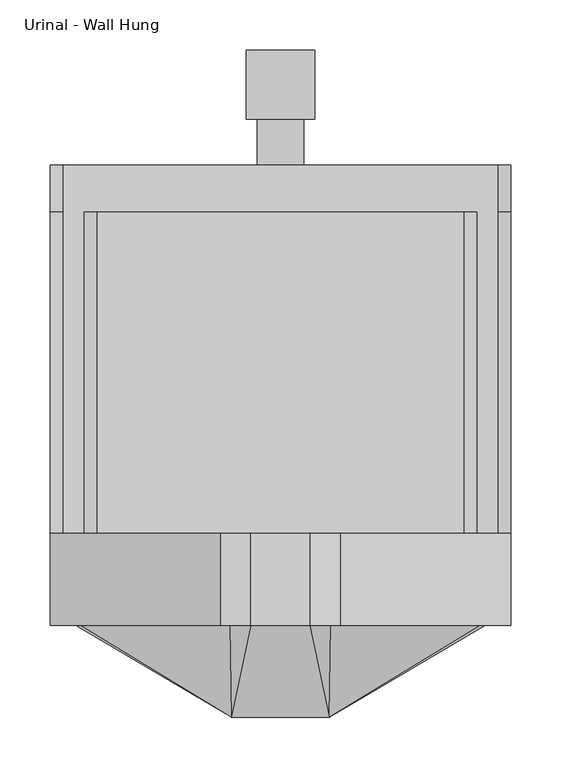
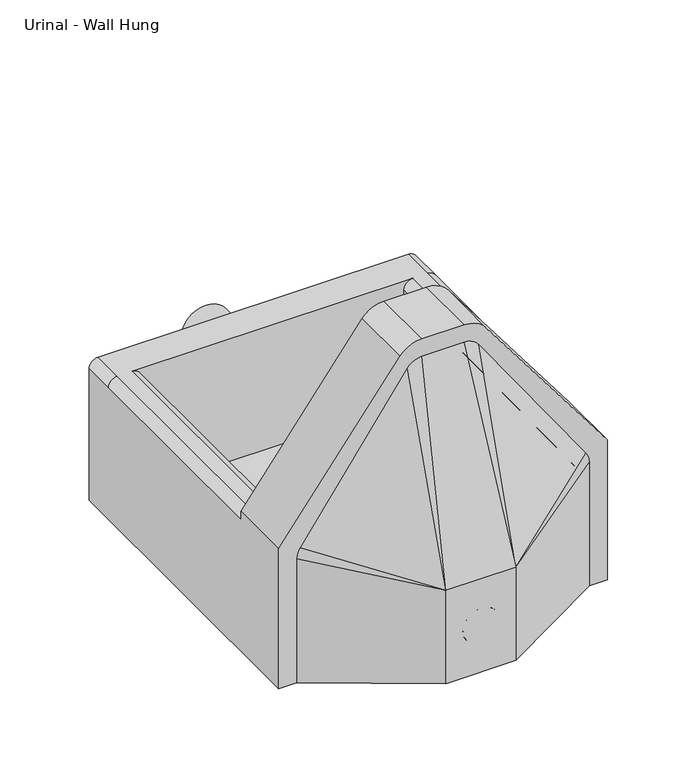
"""IFC4 building model written with IfcOpenShell, lengths in millimetres: flow terminal geometry."""

from ifc_helpers import new_model, si_unit, point, frame, frame_2d, origin, place, context, project, spatial, circle_curve, trimmed, segment, composite_curve, outline, extrude, source, transform, mapped, element, save
from ifc_brep_helpers import plane_surface, cylinder_surface, spline_surface, advanced_brep


def urinal_wall_hung_30bb5849(model_context):
    return source(origin(), model_context, "Body", "SolidModel", [
        advanced_brep(
        [(48.41875, -182.5625, 137.31875), (-48.41875, -182.5625, 137.31875), (-48.41875, -182.5625, 0.0), (48.41875, -182.5625, 0.0), (29.0508537, -91.28125, 419.1), (49.8308698, -91.28125, 408.3065374), (198.580016, -91.28125, 196.6883033), (203.2, -91.28125, 182.0817659), (203.2, -91.28125, 0.0), (-203.2, -91.28125, 0.0), (-203.2, -91.28125, 182.0817659), (-198.580016, -91.28125, 196.6883033), (-49.8308698, -91.28125, 408.3065374), (-29.0508537, -91.28125, 419.1)],
        [
            (0, 1),
            (1, 2),
            (2, 3),
            (3, 0),
            (4, 5, circle_curve(frame((29.0508537, -91.28125, 393.7), z_axis=(0.0, 1.0, 0.0), x_axis=(1.0, 0.0, 0.0)), 25.4)),
            (5, 6),
            (6, 7, circle_curve(frame((177.8, -91.28125, 182.0817659), z_axis=(0.0, 1.0, 0.0), x_axis=(1.0, 0.0, 0.0)), 25.4)),
            (7, 8),
            (8, 9),
            (9, 10),
            (10, 11, circle_curve(frame((-177.8, -91.28125, 182.0817659), z_axis=(0.0, 1.0, 0.0), x_axis=(1.0, 0.0, 0.0)), 25.4)),
            (11, 12),
            (12, 13, circle_curve(frame((-29.0508537, -91.28125, 393.7), z_axis=(0.0, 1.0, 0.0), x_axis=(1.0, 0.0, 0.0)), 25.4)),
            (13, 4),
            (13, 1),
            (0, 4),
            (12, 1),
            (11, 1),
            (10, 1),
            (9, 2),
            (8, 3),
            (7, 0),
            (6, 0),
            (5, 0),
        ],
        [
            plane_surface(frame((0.0, -182.5625, 68.659375), z_axis=(0.0, -1.0, 0.0), x_axis=(-1.0, 0.0, 0.0))),
            plane_surface(frame((0.0, -91.28125, 241.2353213), z_axis=(0.0, 1.0, 0.0), x_axis=(-1.0, 0.0, 0.0))),
            plane_surface(frame((0.0, -91.28125, 419.1), z_axis=(0.0, -0.9513290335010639, 0.3081770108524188), x_axis=(-1.0, 0.0, 0.0))),
            spline_surface(2, 1, [[(-29.0508537, -91.28125, 419.1), (-48.41875, -182.5625, 137.31875)], [(-42.244007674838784, -91.28125, 419.09999995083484), (-48.41875, -182.5625, 137.31875)], [(-49.8308698, -91.28125, 408.3065374), (-48.41875, -182.5625, 137.31875)]], [3, 3], [2, 2], [0.0, 1.0], [0.0, 1.0], weights=[[1.0, 1.0], [0.887429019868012, 0.887429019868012], [1.0, 1.0]]),
            plane_surface(frame((-124.2054429, -91.28125, 302.4974203), z_axis=(-0.41122685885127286, -0.8644875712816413, 0.28905658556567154), x_axis=(-0.5750605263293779, 0.0, -0.8181108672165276))),
            spline_surface(2, 1, [[(-198.580016, -91.28125, 196.6883033), (-48.41875, -182.5625, 137.31875)], [(-203.19999999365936, -91.28125, 190.11567498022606), (-48.41875, -182.5625, 137.31875)], [(-203.2, -91.28125, 182.0817659), (-48.41875, -182.5625, 137.31875)]], [3, 3], [2, 2], [0.0, 1.0], [0.0, 1.0], weights=[[1.0, 1.0], [0.9534439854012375, 0.9534439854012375], [1.0, 1.0]]),
            plane_surface(frame((-203.2, -91.28125, 91.040883), z_axis=(-0.50798501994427, -0.8613659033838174, 0.0), x_axis=(0.0, 0.0, -1.0))),
            plane_surface(frame((0.0, -91.28125, 0.0), z_axis=(0.0, 0.0, -1.0), x_axis=(1.0, 0.0, 0.0))),
            plane_surface(frame((203.2, -91.28125, 91.040883), z_axis=(0.5079850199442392, -0.8613659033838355, 0.0), x_axis=(0.0, 0.0, 1.0))),
            spline_surface(2, 1, [[(203.2, -91.28125, 182.0817659), (48.41875, -182.5625, 137.31875)], [(203.2000000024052, -91.28125, 190.11567498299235), (48.41875, -182.5625, 137.31875)], [(198.580016, -91.28125, 196.6883033), (48.41875, -182.5625, 137.31875)]], [3, 3], [2, 2], [0.0, 1.0], [0.0, 1.0], weights=[[1.0, 1.0], [0.9534439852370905, 0.9534439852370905], [1.0, 1.0]]),
            plane_surface(frame((124.2054429, -91.28125, 302.4974203), z_axis=(0.41122685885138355, -0.8644875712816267, 0.28905658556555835), x_axis=(-0.5750605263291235, 0.0, 0.8181108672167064))),
            spline_surface(2, 1, [[(49.8308698, -91.28125, 408.3065374), (48.41875, -182.5625, 137.31875)], [(42.244007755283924, -91.28125, 419.1000001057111), (48.41875, -182.5625, 137.31875)], [(29.0508537, -91.28125, 419.1), (48.41875, -182.5625, 137.31875)]], [3, 3], [2, 2], [0.0, 1.0], [0.0, 1.0], weights=[[1.0, 1.0], [0.8874290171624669, 0.8874290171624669], [1.0, 1.0]]),
        ],
        [
            (0, [[1, 2, 3, 4]]),
            (1, [[5, 6, 7, 8, 9, 10, 11, 12, 13, 14]]),
            (2, [[-14, 15, -1, 16]]),
            (3, [[-13, 17, -15]]),
            (4, [[-12, 18, -17]]),
            (5, [[-11, 19, -18]]),
            (6, [[-10, 20, -2, -19]]),
            (7, [[-9, 21, -3, -20]]),
            (8, [[-8, 22, -4, -21]]),
            (9, [[-7, 23, -22]]),
            (10, [[-6, 24, -23]]),
            (11, [[-5, -16, -24]]),
        ],
    ),
        extrude(outline(composite_curve([segment(trimmed(circle_curve(frame_2d((102.790625, 0.0)), 34.13125), [point((102.790625, -34.13125))], [point((102.790625, 34.13125))], False, "CARTESIAN"), True, "CONTINUOUS"), segment(trimmed(circle_curve(frame_2d((102.790625, 0.0)), 34.13125), [point((102.790625, 34.13125))], [point((102.790625, -34.13125))], False, "CARTESIAN"), True, "CONTINUOUS")], self_intersect=False)), frame((0.0, 411.95625, 0.0), z_axis=(0.0, 1.0, 0.0), x_axis=(0.0, 0.0, 1.0)), (0.0, 0.0, 1.0), 68.2625),
        advanced_brep(
        [(228.6, -91.28125, 0.0), (-228.6, -91.28125, 0.0), (-228.6, 365.91875, 0.0), (228.6, 365.91875, 0.0), (-59.8511275, 0.0, 429.3407681), (-29.4318712, 0.0, 444.5), (29.4318712, 0.0, 444.5), (59.8511275, 0.0, 429.3407681), (228.6, 0.0, 205.58125), (228.6, 0.0, 192.88125), (215.9, 0.0, 205.58125), (195.2625, 0.0, 205.58125), (182.5625, 0.0, 192.88125), (182.5625, 0.0, 183.5881239), (31.5245701, 0.0, 398.4625), (-31.5245701, 0.0, 398.4625), (-182.5625, 0.0, 183.5881239), (-182.5625, 0.0, 192.88125), (-195.2625, 0.0, 205.58125), (-215.9, 0.0, 205.58125), (-228.6, 0.0, 192.88125), (-228.6, 0.0, 205.58125), (-228.6, -91.28125, 205.58125), (-228.6, 319.88125, 192.88125), (-228.6, 365.91875, 192.88125), (228.6, -91.28125, 205.58125), (59.8511275, -91.28125, 429.3407681), (29.4318712, -91.28125, 444.5), (-29.4318712, -91.28125, 444.5), (-59.8511275, -91.28125, 429.3407681), (31.5245701, -91.28125, 398.4625), (182.5625, -91.28125, 183.5881239), (182.5625, -91.28125, 25.4), (-182.5625, -91.28125, 25.4), (-182.5625, -91.28125, 183.5881239), (-31.5245701, -91.28125, 398.4625), (228.6, 365.91875, 192.88125), (228.6, 319.88125, 192.88125), (-182.5625, 319.88125, 25.4), (-182.5625, 319.88125, 192.88125), (182.5625, 319.88125, 25.4), (182.5625, 319.88125, 192.88125), (195.2625, 319.88125, 205.58125), (-195.2625, 319.88125, 205.58125), (215.9, 365.91875, 205.58125), (-215.9, 365.91875, 205.58125), (-215.9, 319.88125, 205.58125), (215.9, 319.88125, 205.58125)],
        [
            (0, 1),
            (1, 2),
            (2, 3),
            (3, 0),
            (4, 5, circle_curve(frame((-29.4318712, 0.0, 406.4), z_axis=(0.0, 1.0, 0.0), x_axis=(1.0, 0.0, 0.0)), 38.1)),
            (5, 6),
            (6, 7, circle_curve(frame((29.4318712, 0.0, 406.4), z_axis=(0.0, 1.0, 0.0), x_axis=(1.0, 0.0, 0.0)), 38.1)),
            (7, 8),
            (8, 9),
            (9, 10, circle_curve(frame((215.9, 0.0, 192.88125), z_axis=(0.0, -1.0, 0.0), x_axis=(1.0, 0.0, 0.0)), 12.7)),
            (10, 11),
            (11, 12, circle_curve(frame((195.2625, 0.0, 192.88125), z_axis=(0.0, -1.0, 0.0), x_axis=(1.0, 0.0, 0.0)), 12.7)),
            (12, 13),
            (13, 14),
            (14, 15),
            (15, 16),
            (16, 17),
            (17, 18, circle_curve(frame((-195.2625, 0.0, 192.88125), z_axis=(0.0, -1.0, 0.0), x_axis=(1.0, 0.0, 0.0)), 12.7)),
            (18, 19),
            (19, 20, circle_curve(frame((-215.9, 0.0, 192.88125), z_axis=(0.0, -1.0, 0.0), x_axis=(1.0, 0.0, 0.0)), 12.7)),
            (20, 21),
            (21, 4),
            (1, 22),
            (22, 21),
            (20, 23),
            (23, 24),
            (24, 2),
            (0, 25),
            (25, 26),
            (26, 27, circle_curve(frame((29.4318712, -91.28125, 406.4), z_axis=(0.0, -1.0, 0.0), x_axis=(1.0, 0.0, 0.0)), 38.1)),
            (27, 28),
            (28, 29, circle_curve(frame((-29.4318712, -91.28125, 406.4), z_axis=(0.0, -1.0, 0.0), x_axis=(1.0, 0.0, 0.0)), 38.1)),
            (29, 22),
            (30, 31),
            (31, 32),
            (32, 33),
            (33, 34),
            (34, 35),
            (35, 30),
            (3, 36),
            (36, 37),
            (37, 9),
            (8, 25),
            (29, 4),
            (7, 26),
            (6, 27),
            (5, 28),
            (13, 31),
            (30, 14),
            (35, 15),
            (34, 16),
            (33, 38),
            (38, 39),
            (39, 17),
            (32, 40),
            (40, 38),
            (12, 41),
            (41, 40),
            (42, 43),
            (43, 39, circle_curve(frame((-195.2625, 319.88125, 192.88125), z_axis=(0.0, 1.0, 0.0), x_axis=(1.0, 0.0, 0.0)), 12.7)),
            (41, 42, circle_curve(frame((195.2625, 319.88125, 192.88125), z_axis=(0.0, 1.0, 0.0), x_axis=(1.0, 0.0, 0.0)), 12.7)),
            (44, 36, circle_curve(frame((215.9, 365.91875, 192.88125), z_axis=(0.0, 1.0, 0.0), x_axis=(1.0, 0.0, 0.0)), 12.7)),
            (24, 45, circle_curve(frame((-215.9, 365.91875, 192.88125), z_axis=(0.0, 1.0, 0.0), x_axis=(1.0, 0.0, 0.0)), 12.7)),
            (45, 44),
            (45, 46),
            (46, 19),
            (18, 43),
            (42, 11),
            (10, 47),
            (47, 44),
            (23, 46, circle_curve(frame((-215.9, 319.88125, 192.88125), z_axis=(0.0, 1.0, 0.0), x_axis=(1.0, 0.0, 0.0)), 12.7)),
            (47, 37, circle_curve(frame((215.9, 319.88125, 192.88125), z_axis=(0.0, 1.0, 0.0), x_axis=(1.0, 0.0, 0.0)), 12.7)),
        ],
        [
            plane_surface(frame((-228.6, 0.0, 0.0), z_axis=(0.0, 0.0, -1.0), x_axis=(1.0, 0.0, 0.0))),
            plane_surface(frame((228.6, 0.0, 205.58125), z_axis=(0.0, 1.0, 0.0), x_axis=(0.0, 0.0, -1.0))),
            plane_surface(frame((-228.6, 0.0, 205.58125), z_axis=(-1.0, 0.0, 0.0), x_axis=(0.0, 0.0, -1.0))),
            plane_surface(frame((-228.6, -91.28125, 205.58125), z_axis=(0.0, -1.0, 0.0), x_axis=(0.0, 0.0, -1.0))),
            plane_surface(frame((228.6, -91.28125, 205.58125), z_axis=(1.0, 0.0, 0.0), x_axis=(0.0, 0.0, -1.0))),
            plane_surface(frame((-59.8511275, -91.28125, 429.3407681), z_axis=(-0.7984056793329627, 0.0, 0.602119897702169), x_axis=(0.0, 1.0, 0.0))),
            plane_surface(frame((228.6, -91.28125, 205.58125), z_axis=(0.7984056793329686, 0.0, 0.6021198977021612), x_axis=(0.0, 1.0, 0.0))),
            cylinder_surface(frame((29.4318712, 0.0, 406.4), z_axis=(0.0, -1.0, 0.0), x_axis=(1.0, 0.0, 0.0)), 38.1),
            plane_surface(frame((29.4318712, -91.28125, 444.5), z_axis=(0.0, 0.0, 1.0), x_axis=(0.0, 1.0, 0.0))),
            cylinder_surface(frame((-29.4318712, 0.0, 406.4), z_axis=(0.0, -1.0, 0.0), x_axis=(1.0, 0.0, 0.0)), 38.1),
            plane_surface(frame((182.5625, -91.28125, 183.5881239), z_axis=(-0.8181108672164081, 0.0, -0.5750605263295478), x_axis=(0.0, 1.0, 0.0))),
            plane_surface(frame((31.5245701, -91.28125, 398.4625), z_axis=(0.0, 0.0, -1.0), x_axis=(0.0, 1.0, 0.0))),
            plane_surface(frame((-31.5245701, -91.28125, 398.4625), z_axis=(0.8181108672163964, 0.0, -0.5750605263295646), x_axis=(0.0, 1.0, 0.0))),
            plane_surface(frame((-182.5625, -91.28125, 183.5881239), z_axis=(1.0, 0.0, 0.0), x_axis=(0.0, 1.0, 0.0))),
            plane_surface(frame((-182.5625, -91.28125, 25.4), z_axis=(0.0, 0.0, 1.0), x_axis=(0.0, 1.0, 0.0))),
            plane_surface(frame((182.5625, -91.28125, 25.4), z_axis=(-1.0, 0.0, 0.0), x_axis=(0.0, 1.0, 0.0))),
            plane_surface(frame((-215.9, 319.88125, 205.58125), z_axis=(0.0, -1.0, 0.0), x_axis=(-1.0, 0.0, 0.0))),
            plane_surface(frame((-215.9, 365.91875, 205.58125), z_axis=(0.0, 1.0, 0.0), x_axis=(1.0, 0.0, 0.0))),
            plane_surface(frame((215.9, 319.88125, 205.58125), z_axis=(0.0, 0.0, 1.0), x_axis=(0.0, 1.0, 0.0))),
            cylinder_surface(frame((-215.9, 365.91875, 192.88125), z_axis=(0.0, -1.0, 0.0), x_axis=(1.0, 0.0, 0.0)), 12.7),
            cylinder_surface(frame((215.9, 365.91875, 192.88125), z_axis=(0.0, -1.0, 0.0), x_axis=(1.0, 0.0, 0.0)), 12.7),
            cylinder_surface(frame((-215.9, 319.88125, 192.88125), z_axis=(0.0, -1.0, 0.0), x_axis=(1.0, 0.0, 0.0)), 12.7),
            cylinder_surface(frame((215.9, 319.88125, 192.88125), z_axis=(0.0, -1.0, 0.0), x_axis=(1.0, 0.0, 0.0)), 12.7),
            cylinder_surface(frame((195.2625, 319.88125, 192.88125), z_axis=(0.0, -1.0, 0.0), x_axis=(1.0, 0.0, 0.0)), 12.7),
            cylinder_surface(frame((-195.2625, 319.88125, 192.88125), z_axis=(0.0, -1.0, 0.0), x_axis=(1.0, 0.0, 0.0)), 12.7),
        ],
        [
            (0, [[1, 2, 3, 4]]),
            (1, [[5, 6, 7, 8, 9, 10, 11, 12, 13, 14, 15, 16, 17, 18, 19, 20, 21, 22]]),
            (2, [[-2, 23, 24, -21, 25, 26, 27]]),
            (3, [[-1, 28, 29, 30, 31, 32, 33, -23], [34, 35, 36, 37, 38, 39]]),
            (4, [[-4, 40, 41, 42, -9, 43, -28]]),
            (5, [[-33, 44, -22, -24]]),
            (6, [[-29, -43, -8, 45]]),
            (7, [[-30, -45, -7, 46]]),
            (8, [[-31, -46, -6, 47]]),
            (9, [[-32, -47, -5, -44]]),
            (10, [[48, -34, 49, -14]]),
            (11, [[-49, -39, 50, -15]]),
            (12, [[-50, -38, 51, -16]]),
            (13, [[-51, -37, 52, 53, 54, -17]]),
            (14, [[-52, -36, 55, 56]]),
            (15, [[-48, -13, 57, 58, -55, -35]]),
            (16, [[59, 60, -53, -56, -58, 61]]),
            (17, [[62, -40, -3, -27, 63, 64]]),
            (18, [[-64, 65, 66, -19, 67, -59, 68, -11, 69, 70]]),
            (19, [[-63, -26, 71, -65]]),
            (20, [[-62, -70, 72, -41]]),
            (21, [[-66, -71, -25, -20]]),
            (22, [[-42, -72, -69, -10]]),
            (23, [[-68, -61, -57, -12]]),
            (24, [[-67, -18, -54, -60]]),
        ],
    ),
        extrude(outline(composite_curve([segment(trimmed(circle_curve(frame_2d((68.659375, 0.0)), 25.4), [point((68.659375, -25.4))], [point((68.659375, 25.4))], False, "CARTESIAN"), True, "CONTINUOUS"), segment(trimmed(circle_curve(frame_2d((68.659375, 0.0)), 25.4), [point((68.659375, 25.4))], [point((68.659375, -25.4))], False, "CARTESIAN"), True, "CONTINUOUS")], self_intersect=False)), frame((0.0, -182.5625, 0.0), z_axis=(0.0, 1.0, 0.0), x_axis=(0.0, 0.0, 1.0)), (0.0, 0.0, 1.0), 91.28125),
        extrude(outline(composite_curve([segment(trimmed(circle_curve(frame_2d((102.790625, 0.0)), 23.01875), [point((102.790625, -23.01875))], [point((102.790625, 23.01875))], False, "CARTESIAN"), True, "CONTINUOUS"), segment(trimmed(circle_curve(frame_2d((102.790625, 0.0)), 23.01875), [point((102.790625, 23.01875))], [point((102.790625, -23.01875))], False, "CARTESIAN"), True, "CONTINUOUS")], self_intersect=False)), frame((0.0, 365.91875, 0.0), z_axis=(0.0, 1.0, 0.0), x_axis=(0.0, 0.0, 1.0)), (0.0, 0.0, 1.0), 46.0375),
    ])


if __name__ == "__main__":
    model = new_model("IFC4")
    model_context = context("Model", 3, world=origin())
    ifc_project = project(units=[si_unit("LENGTHUNIT", "METRE", prefix="MILLI")], contexts=[model_context])
    site = spatial("IfcSite", under=ifc_project)
    building = spatial("IfcBuilding", under=site)
    placement = place(None, origin())
    urinal_wall_hung_shape = urinal_wall_hung_30bb5849(model_context)
    element("IfcFlowTerminal", 1, ObjectType="Urinal - Wall Hung : D2010210_Urinal_WallHung_3/4\" FlushValve", at=placement, inside=building, context=model_context, shape_type="MappedRepresentation", body=[
        mapped(urinal_wall_hung_shape, transform((0.0, 0.0, 0.0), x_axis=(1.0, 0.0, 0.0), y_axis=(0.0, 1.0, 0.0), z_axis=(0.0, 0.0, 1.0))),
    ])
    save(model, "model.ifc")
